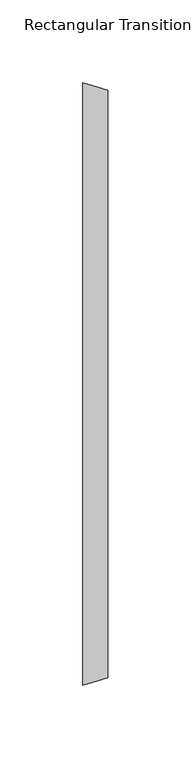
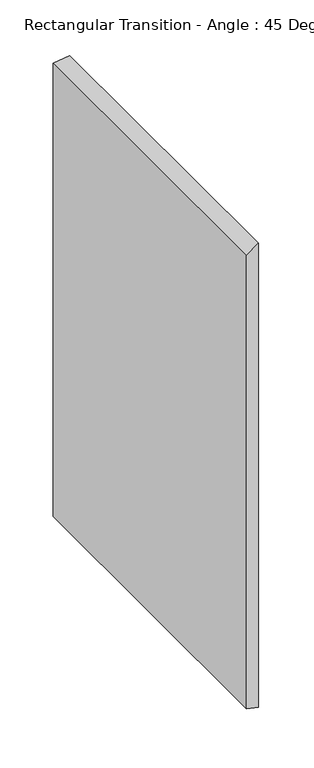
"""IFC4 building model written with IfcOpenShell, lengths in millimetres: duct fitting geometry, Rectangular Transition - Angle : 45 Degree."""

from ifc_helpers import new_model, si_unit, origin, place, context, project, spatial, faceted_brep, source, transform, mapped, element, save


def rectangular_transition_angle_45_degree_dbe4abd4(model_context):
    return source(origin(), model_context, "Body", "Brep", [
        faceted_brep([(15.3302561, 177.8, 266.7), (15.3302561, -177.8, 266.7), (15.3302561, -177.8, -266.7), (15.3302561, 177.8, -266.7), (0.0, 182.2648438, 260.35), (0.0, 182.2648438, -260.35), (0.0, -182.2648437, -260.35), (0.0, -182.2648437, 260.35)], [[[0, 1, 2, 3]], [[4, 5, 6, 7]], [[4, 0, 3, 5]], [[5, 3, 2, 6]], [[6, 2, 1, 7]], [[7, 1, 0, 4]]]),
    ])


if __name__ == "__main__":
    model = new_model("IFC4")
    model_context = context("Model", 3, world=origin())
    ifc_project = project(units=[si_unit("LENGTHUNIT", "METRE", prefix="MILLI")], contexts=[model_context])
    site = spatial("IfcSite", under=ifc_project)
    building = spatial("IfcBuilding", under=site)
    placement = place(None, origin())
    rectangular_transition_angle_45_degree_shape = rectangular_transition_angle_45_degree_dbe4abd4(model_context)
    element("IfcDuctFitting", 1, ObjectType="Rectangular Transition - Angle : 45 Degree", at=placement, inside=building, context=model_context, shape_type="MappedRepresentation", body=[
        mapped(rectangular_transition_angle_45_degree_shape, transform((0.0, 0.0, 0.0), x_axis=(1.0, 0.0, 0.0), y_axis=(0.0, 1.0, 0.0), z_axis=(0.0, 0.0, 1.0))),
    ])
    save(model, "model.ifc")
